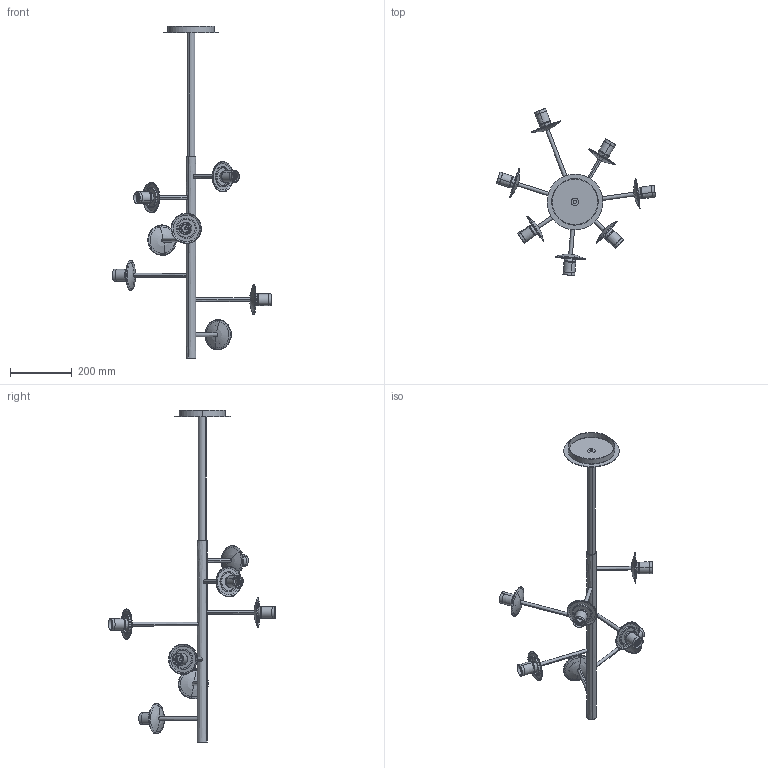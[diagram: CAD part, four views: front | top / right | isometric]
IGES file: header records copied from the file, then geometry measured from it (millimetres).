
Start section: SolidWorks IGES file using analytic representation for surfaces
Global section: file name: \\192.168.111.232\grupos\DISENYO\DESARROLLO DE PRODUCTO\PARMA-3946\PARMA - C3946580 - COLGANTE 7 LUCES\C3946580.IGS; native system: SolidWorks 2025; preprocessor: SolidWorks 2025; author: o.domenech; date: 260213.133648; units: millimetre
Bounding box: 513.48 x 539.61 x 1071 mm (x, y, z)
Volume: 1376710.5 mm3; surface area: 431595.4 mm2
Topology: 16 solids, 16 shells, 460 faces, 3413 edges, 4039 vertices
Faces by surface type: revolution 341, plane 91, bspline 28
